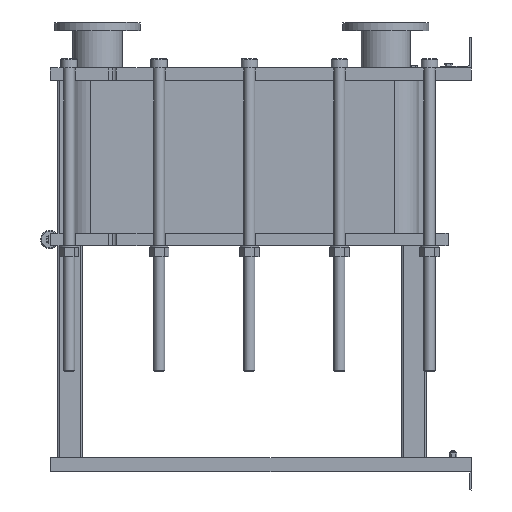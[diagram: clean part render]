
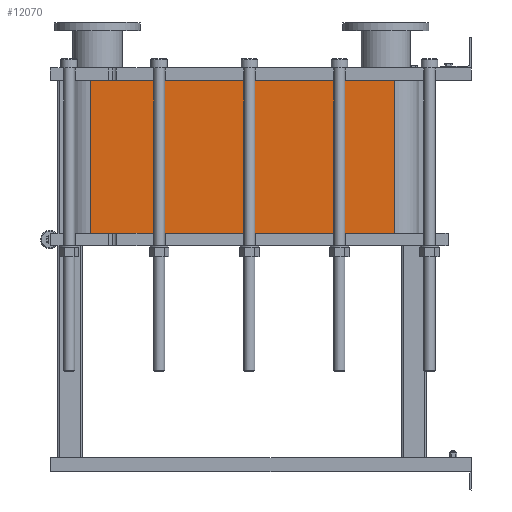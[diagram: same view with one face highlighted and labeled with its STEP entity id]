
A CAD part, left-side view. The second image highlights one B-rep face of the part: STEP entity #12070.
In plain terms, the highlighted planar face has unit normal (-1, 0, 0).
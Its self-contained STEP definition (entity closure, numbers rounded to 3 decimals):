
#1064=LINE('',#21140,#2164);
#1065=LINE('',#21144,#2165);
#1066=LINE('',#21146,#2166);
#1067=LINE('',#21147,#2167);
#2164=VECTOR('',#15790,10.);
#2165=VECTOR('',#15795,10.);
#2166=VECTOR('',#15796,10.);
#2167=VECTOR('',#15797,10.);
#3304=FACE_OUTER_BOUND('',#4091,.T.);
#4091=EDGE_LOOP('',(#9793,#9794,#9795,#9796));
#5677=VERTEX_POINT('',#21137);
#5678=VERTEX_POINT('',#21139);
#5679=VERTEX_POINT('',#21143);
#5680=VERTEX_POINT('',#21145);
#7118=EDGE_CURVE('',#5678,#5677,#1064,.T.);
#7120=EDGE_CURVE('',#5677,#5679,#1065,.T.);
#7121=EDGE_CURVE('',#5680,#5679,#1066,.T.);
#7122=EDGE_CURVE('',#5680,#5678,#1067,.T.);
#9793=ORIENTED_EDGE('',*,*,#7120,.T.);
#9794=ORIENTED_EDGE('',*,*,#7121,.F.);
#9795=ORIENTED_EDGE('',*,*,#7122,.T.);
#9796=ORIENTED_EDGE('',*,*,#7118,.T.);
#11441=PLANE('',#13191);
#12070=ADVANCED_FACE('',(#3304),#11441,.T.);
#13191=AXIS2_PLACEMENT_3D('',#21142,#15793,#15794);
#15790=DIRECTION('',(0.,0.,-1.));
#15793=DIRECTION('center_axis',(-1.,0.,0.));
#15794=DIRECTION('ref_axis',(0.,1.,0.));
#15795=DIRECTION('',(0.,-1.,0.));
#15796=DIRECTION('',(0.,0.,-1.));
#15797=DIRECTION('',(0.,1.,0.));
#21137=CARTESIAN_POINT('',(-248.152,1243.818,-500.25));
#21139=CARTESIAN_POINT('',(-248.152,1243.818,0.));
#21140=CARTESIAN_POINT('',(-248.152,1243.818,0.));
#21142=CARTESIAN_POINT('Origin',(-248.152,251.818,0.));
#21143=CARTESIAN_POINT('',(-248.152,251.818,-500.25));
#21144=CARTESIAN_POINT('',(-248.152,499.818,-500.25));
#21145=CARTESIAN_POINT('',(-248.152,251.818,0.));
#21146=CARTESIAN_POINT('',(-248.152,251.818,0.));
#21147=CARTESIAN_POINT('',(-248.152,251.818,0.));
